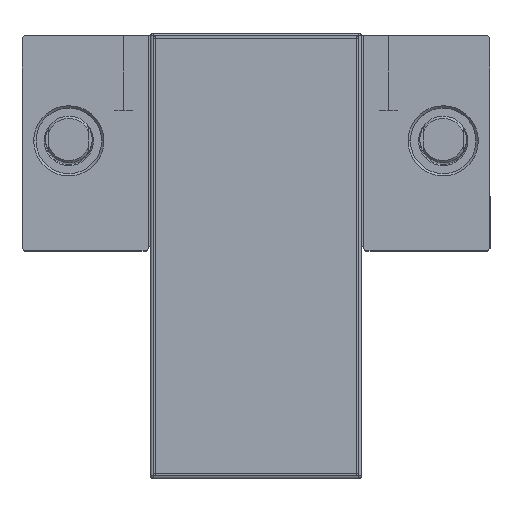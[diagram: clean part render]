
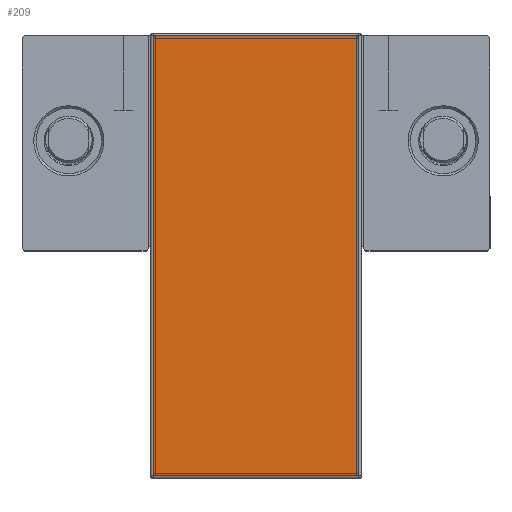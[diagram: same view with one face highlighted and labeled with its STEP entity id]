
A CAD part, top view. The second image highlights one B-rep face of the part: STEP entity #209.
In plain terms, the highlighted planar face has unit normal (0, 0, 1).
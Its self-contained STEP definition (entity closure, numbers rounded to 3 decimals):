
#209 = ADVANCED_FACE ( 'NONE', ( #2656 ), #35373, .T. ) ;
#571 = EDGE_CURVE ( 'NONE', #28336, #15163, #4472, .T. ) ;
#1240 = EDGE_LOOP ( 'NONE', ( #12605, #6373, #5517, #13662 ) ) ;
#2656 = FACE_OUTER_BOUND ( 'NONE', #1240, .T. ) ;
#2834 = DIRECTION ( 'NONE',  ( 1., 0., 0. ) ) ;
#3060 = LINE ( 'NONE', #9787, #10964 ) ;
#4248 = DIRECTION ( 'NONE',  ( 0., 1., 0. ) ) ;
#4472 = LINE ( 'NONE', #7236, #27218 ) ;
#5517 = ORIENTED_EDGE ( 'NONE', *, *, #571, .T. ) ;
#6373 = ORIENTED_EDGE ( 'NONE', *, *, #26584, .T. ) ;
#6807 = VECTOR ( 'NONE', #22179, 1000. ) ;
#7236 = CARTESIAN_POINT ( 'NONE',  ( 44., 44., 521. ) ) ;
#7473 = CARTESIAN_POINT ( 'NONE',  ( -44., 44., 521. ) ) ;
#8581 = EDGE_CURVE ( 'NONE', #15163, #34807, #21693, .T. ) ;
#9061 = EDGE_CURVE ( 'NONE', #34807, #33297, #3060, .T. ) ;
#9245 = DIRECTION ( 'NONE',  ( 1., 0., 0. ) ) ;
#9787 = CARTESIAN_POINT ( 'NONE',  ( -44., -144., 521. ) ) ;
#10964 = VECTOR ( 'NONE', #33383, 1000. ) ;
#12605 = ORIENTED_EDGE ( 'NONE', *, *, #9061, .T. ) ;
#13662 = ORIENTED_EDGE ( 'NONE', *, *, #8581, .T. ) ;
#15163 = VERTEX_POINT ( 'NONE', #17507 ) ;
#17507 = CARTESIAN_POINT ( 'NONE',  ( 44., 44., 521. ) ) ;
#19738 = VECTOR ( 'NONE', #9245, 1000. ) ;
#20624 = DIRECTION ( 'NONE',  ( 0., 0., 1. ) ) ;
#21056 = CARTESIAN_POINT ( 'NONE',  ( 44., -144., 521. ) ) ;
#21184 = CARTESIAN_POINT ( 'NONE',  ( 44., -144., 521. ) ) ;
#21693 = LINE ( 'NONE', #7473, #6807 ) ;
#22179 = DIRECTION ( 'NONE',  ( -1., 0., 0. ) ) ;
#23782 = CARTESIAN_POINT ( 'NONE',  ( -44., 44., 521. ) ) ;
#26434 = CARTESIAN_POINT ( 'NONE',  ( -44., -144., 521. ) ) ;
#26584 = EDGE_CURVE ( 'NONE', #33297, #28336, #27606, .T. ) ;
#27218 = VECTOR ( 'NONE', #4248, 1000. ) ;
#27606 = LINE ( 'NONE', #21056, #19738 ) ;
#28336 = VERTEX_POINT ( 'NONE', #21184 ) ;
#30688 = AXIS2_PLACEMENT_3D ( 'NONE', #26434, #20624, #2834 ) ;
#33297 = VERTEX_POINT ( 'NONE', #33336 ) ;
#33336 = CARTESIAN_POINT ( 'NONE',  ( -44., -144., 521. ) ) ;
#33383 = DIRECTION ( 'NONE',  ( 0., -1., 0. ) ) ;
#34807 = VERTEX_POINT ( 'NONE', #23782 ) ;
#35373 = PLANE ( 'NONE',  #30688 ) ;
